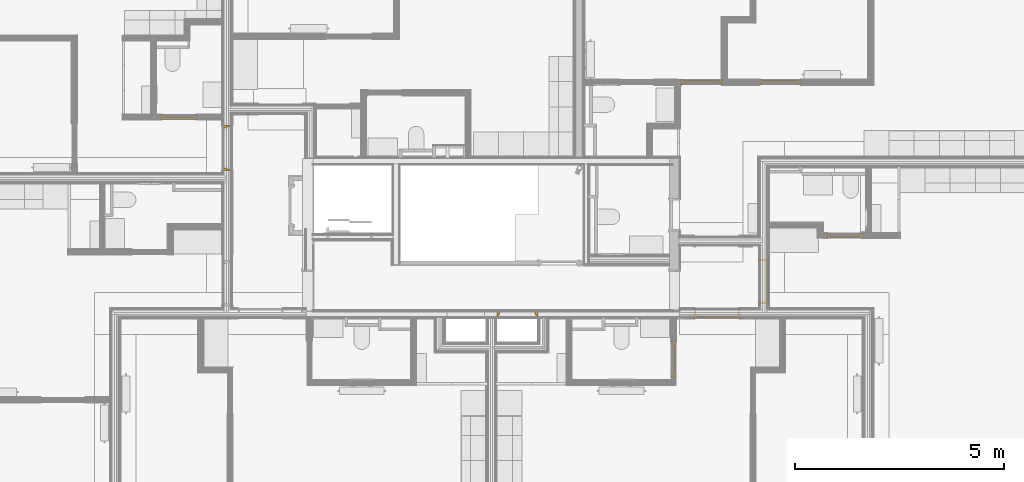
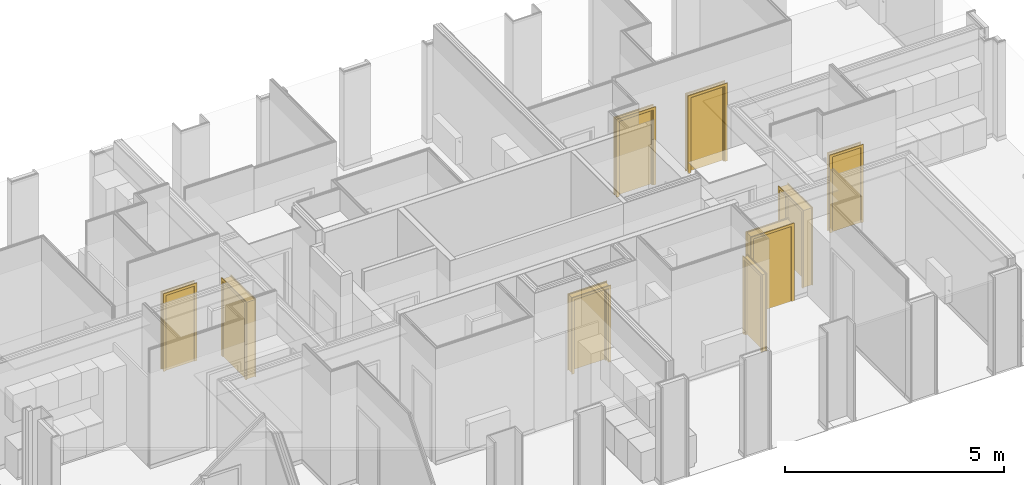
# One storey, part 55 of 65: 9 doors.
"""IFC2X3 building model written with IfcOpenShell, lengths in metres."""

from ifc_helpers import new_model, entity, si_unit, converted_unit, derived_unit, money_unit, direction, frame, origin_with_axes, place, context, subcontext, project, spatial, faceted_brep, material, type_object, element, save


model = new_model("IFC2X3")

# Units and contexts
model_context = context("Model", 3, precision=1e-05, world=origin_with_axes(), true_north=direction((0.0, 1.0)))
body_context = subcontext(model_context, "Body", "Model", "MODEL_VIEW", scale=1.0)
ifc_project = project(units=[si_unit("LENGTHUNIT", "METRE"), si_unit("AREAUNIT", "SQUARE_METRE"), si_unit("VOLUMEUNIT", "CUBIC_METRE"), si_unit("ABSORBEDDOSEUNIT", "GRAY"), si_unit("AMOUNTOFSUBSTANCEUNIT", "MOLE"), si_unit("DOSEEQUIVALENTUNIT", "SIEVERT"), si_unit("ELECTRICCAPACITANCEUNIT", "FARAD"), si_unit("ELECTRICCHARGEUNIT", "COULOMB"), si_unit("ELECTRICCONDUCTANCEUNIT", "SIEMENS"), si_unit("ELECTRICCURRENTUNIT", "AMPERE"), si_unit("ELECTRICRESISTANCEUNIT", "OHM"), si_unit("ELECTRICVOLTAGEUNIT", "VOLT"), si_unit("ENERGYUNIT", "JOULE"), si_unit("FORCEUNIT", "NEWTON"), si_unit("FREQUENCYUNIT", "HERTZ"), si_unit("ILLUMINANCEUNIT", "LUX"), si_unit("INDUCTANCEUNIT", "HENRY"), si_unit("LUMINOUSFLUXUNIT", "LUMEN"), si_unit("LUMINOUSINTENSITYUNIT", "CANDELA"), si_unit("MAGNETICFLUXDENSITYUNIT", "TESLA"), si_unit("MAGNETICFLUXUNIT", "WEBER"), si_unit("MASSUNIT", "GRAM"), converted_unit("PLANEANGLEUNIT", "degree", entity("IfcReal", 0.0174532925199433), si_unit("PLANEANGLEUNIT", "RADIAN"), dimensions=[0, 0, 0, 0, 0, 0, 0]), si_unit("POWERUNIT", "WATT"), si_unit("PRESSUREUNIT", "PASCAL"), si_unit("RADIOACTIVITYUNIT", "BECQUEREL"), si_unit("SOLIDANGLEUNIT", "STERADIAN"), si_unit("THERMODYNAMICTEMPERATUREUNIT", "KELVIN"), si_unit("TIMEUNIT", "SECOND"), derived_unit("ACCELERATIONUNIT", [(si_unit("LENGTHUNIT", "METRE"), 1), (si_unit("TIMEUNIT", "SECOND"), -2)]), derived_unit("ANGULARVELOCITYUNIT", [(converted_unit("PLANEANGLEUNIT", "degree", entity("IfcReal", 0.0174532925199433), si_unit("PLANEANGLEUNIT", "RADIAN"), dimensions=[0, 0, 0, 0, 0, 0, 0]), 1), (si_unit("TIMEUNIT", "SECOND"), -1)]), derived_unit("CURVATUREUNIT", [(converted_unit("PLANEANGLEUNIT", "degree", entity("IfcReal", 0.0174532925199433), si_unit("PLANEANGLEUNIT", "RADIAN"), dimensions=[0, 0, 0, 0, 0, 0, 0]), 1), (si_unit("LENGTHUNIT", "METRE"), -1)]), derived_unit("DYNAMICVISCOSITYUNIT", [(si_unit("PRESSUREUNIT", "PASCAL"), 1), (si_unit("TIMEUNIT", "SECOND"), 1)]), derived_unit("HEATFLUXDENSITYUNIT", [(si_unit("POWERUNIT", "WATT"), 1), (si_unit("LENGTHUNIT", "METRE"), -2)]), derived_unit("HEATINGVALUEUNIT", [(si_unit("ENERGYUNIT", "JOULE"), 1), (si_unit("MASSUNIT", "GRAM"), -1)]), derived_unit("INTEGERCOUNTRATEUNIT", [(si_unit("TIMEUNIT", "SECOND"), -1)]), derived_unit("IONCONCENTRATIONUNIT", [(si_unit("MASSUNIT", "GRAM"), 1), (si_unit("VOLUMEUNIT", "CUBIC_METRE"), -1)]), derived_unit("ISOTHERMALMOISTURECAPACITYUNIT", [(si_unit("VOLUMEUNIT", "CUBIC_METRE"), 1), (si_unit("MASSUNIT", "GRAM"), -1)]), derived_unit("KINEMATICVISCOSITYUNIT", [(si_unit("AREAUNIT", "SQUARE_METRE"), 1), (si_unit("TIMEUNIT", "SECOND"), -1)]), derived_unit("LINEARFORCEUNIT", [(si_unit("FORCEUNIT", "NEWTON"), 1), (si_unit("LENGTHUNIT", "METRE"), -1)]), derived_unit("LINEARMOMENTUNIT", [(si_unit("FORCEUNIT", "NEWTON"), 1), (si_unit("LENGTHUNIT", "METRE"), -1)]), derived_unit("LINEARSTIFFNESSUNIT", [(si_unit("FORCEUNIT", "NEWTON"), 1), (si_unit("LENGTHUNIT", "METRE"), -1)]), derived_unit("LINEARVELOCITYUNIT", [(si_unit("LENGTHUNIT", "METRE"), 1), (si_unit("TIMEUNIT", "SECOND"), -1)]), derived_unit("LUMINOUSINTENSITYDISTRIBUTIONUNIT", [(si_unit("LUMINOUSINTENSITYUNIT", "CANDELA"), 1), (si_unit("LUMINOUSFLUXUNIT", "LUMEN"), -1)]), derived_unit("MASSDENSITYUNIT", [(si_unit("MASSUNIT", "GRAM"), 1), (si_unit("VOLUMEUNIT", "CUBIC_METRE"), -1)]), derived_unit("MASSFLOWRATEUNIT", [(si_unit("MASSUNIT", "GRAM"), 1), (si_unit("TIMEUNIT", "SECOND"), -1)]), derived_unit("MASSPERLENGTHUNIT", [(si_unit("MASSUNIT", "GRAM"), 1), (si_unit("LENGTHUNIT", "METRE"), -1)]), derived_unit("MODULUSOFELASTICITYUNIT", [(si_unit("FORCEUNIT", "NEWTON"), 1), (si_unit("AREAUNIT", "SQUARE_METRE"), -1)]), derived_unit("MODULUSOFLINEARSUBGRADEREACTIONUNIT", [(si_unit("FORCEUNIT", "NEWTON"), 1), (si_unit("LENGTHUNIT", "METRE"), -2)]), derived_unit("MODULUSOFROTATIONALSUBGRADEREACTIONUNIT", [(si_unit("FORCEUNIT", "NEWTON"), 1), (si_unit("LENGTHUNIT", "METRE"), 1)]), derived_unit("MODULUSOFSUBGRADEREACTIONUNIT", [(si_unit("FORCEUNIT", "NEWTON"), 1), (si_unit("VOLUMEUNIT", "CUBIC_METRE"), -1)]), derived_unit("MOISTUREDIFFUSIVITYUNIT", [(si_unit("VOLUMEUNIT", "CUBIC_METRE"), 1), (si_unit("TIMEUNIT", "SECOND"), -1)]), derived_unit("MOLECULARWEIGHTUNIT", [(si_unit("MASSUNIT", "GRAM"), 1), (si_unit("AMOUNTOFSUBSTANCEUNIT", "MOLE"), -1)]), derived_unit("PLANARFORCEUNIT", [(si_unit("FORCEUNIT", "NEWTON"), 1), (si_unit("LENGTHUNIT", "METRE"), -2)]), derived_unit("ROTATIONALFREQUENCYUNIT", [(si_unit("TIMEUNIT", "SECOND"), -1)]), derived_unit("ROTATIONALMASSUNIT", [(si_unit("MASSUNIT", "GRAM"), 1), (si_unit("LENGTHUNIT", "METRE"), 2)]), derived_unit("ROTATIONALSTIFFNESSUNIT", [(si_unit("FORCEUNIT", "NEWTON"), 1), (si_unit("LENGTHUNIT", "METRE"), 1), (converted_unit("PLANEANGLEUNIT", "degree", entity("IfcReal", 0.0174532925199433), si_unit("PLANEANGLEUNIT", "RADIAN"), dimensions=[0, 0, 0, 0, 0, 0, 0]), -1)]), derived_unit("SECTIONAREAINTEGRALUNIT", [(si_unit("LENGTHUNIT", "METRE"), 5)]), derived_unit("SECTIONMODULUSUNIT", [(si_unit("LENGTHUNIT", "METRE"), 3)]), derived_unit("SHEARMODULUSUNIT", [(si_unit("FORCEUNIT", "NEWTON"), 1), (si_unit("AREAUNIT", "SQUARE_METRE"), -1)]), derived_unit("SOUNDPOWERUNIT", [(si_unit("ENERGYUNIT", "JOULE"), 1), (si_unit("TIMEUNIT", "SECOND"), -1)]), derived_unit("SPECIFICHEATCAPACITYUNIT", [(si_unit("FORCEUNIT", "NEWTON"), 1), (si_unit("MASSUNIT", "GRAM"), -1), (si_unit("THERMODYNAMICTEMPERATUREUNIT", "KELVIN"), -1)]), derived_unit("TEMPERATUREGRADIENTUNIT", [(si_unit("THERMODYNAMICTEMPERATUREUNIT", "KELVIN"), 1), (si_unit("LENGTHUNIT", "METRE"), -1)]), derived_unit("THERMALADMITTANCEUNIT", [(si_unit("POWERUNIT", "WATT"), 1), (si_unit("AREAUNIT", "SQUARE_METRE"), -1), (si_unit("THERMODYNAMICTEMPERATUREUNIT", "KELVIN"), -1)]), derived_unit("THERMALCONDUCTANCEUNIT", [(si_unit("POWERUNIT", "WATT"), 1), (si_unit("LENGTHUNIT", "METRE"), -1), (si_unit("THERMODYNAMICTEMPERATUREUNIT", "KELVIN"), -1)]), derived_unit("THERMALEXPANSIONCOEFFICIENTUNIT", [(si_unit("THERMODYNAMICTEMPERATUREUNIT", "KELVIN"), -1)]), derived_unit("THERMALRESISTANCEUNIT", [(si_unit("AREAUNIT", "SQUARE_METRE"), 1), (si_unit("POWERUNIT", "WATT"), -1)]), derived_unit("THERMALTRANSMITTANCEUNIT", [(si_unit("POWERUNIT", "WATT"), 1), (si_unit("AREAUNIT", "SQUARE_METRE"), -1), (si_unit("THERMODYNAMICTEMPERATUREUNIT", "KELVIN"), -1)]), derived_unit("TORQUEUNIT", [(si_unit("FORCEUNIT", "NEWTON"), 1), (si_unit("LENGTHUNIT", "METRE"), 1)]), derived_unit("VAPORPERMEABILITYUNIT", [(si_unit("MASSUNIT", "GRAM"), 1), (si_unit("TIMEUNIT", "SECOND"), -1)]), derived_unit("VOLUMETRICFLOWRATEUNIT", [(si_unit("VOLUMEUNIT", "CUBIC_METRE"), 1), (si_unit("TIMEUNIT", "SECOND"), -1)]), derived_unit("WARPINGCONSTANTUNIT", [(si_unit("LENGTHUNIT", "METRE"), 6)]), derived_unit("WARPINGMOMENTUNIT", [(si_unit("FORCEUNIT", "NEWTON"), 1), (si_unit("LENGTHUNIT", "METRE"), 2)]), money_unit("GBP")], contexts=[model_context])

# Site, building, storey, space
site_placement = place(None, origin_with_axes())
site = spatial("IfcSite", under=ifc_project, at=site_placement, Name="Site", CompositionType="ELEMENT")
building_placement = place(site_placement, origin_with_axes())
building = spatial("IfcBuilding", under=site, at=building_placement, Name="Building01", CompositionType="ELEMENT")
storey_placement = place(building_placement, frame((0.0, 0.0, 8.64), z_axis=(0.0, 0.0, 1.0), x_axis=(1.0, 0.0, 0.0)))
storey = spatial("IfcBuildingStorey", under=building, at=storey_placement, Name="2F", CompositionType="ELEMENT", Elevation=8.64)
space_1_placement = place(storey_placement, frame((20.122661, 5.205, 0.017975), z_axis=(0.0, 0.0, 1.0), x_axis=(1.0, 0.0, 0.0)))
space_1 = spatial("IfcSpace", under=storey, at=space_1_placement, Name="10", CompositionType="ELEMENT", InteriorOrExteriorSpace="NOTDEFINED")

# Door
ifc_material = material(Name="A_BSUK_Doors")
door_style_1 = type_object("IfcDoorStyle", Name="A-Doors-SingleFlush", ConstructionType="USERDEFINED", OperationType="SINGLE_SWING_RIGHT", ParameterTakesPrecedence=False, Sizeable=False)
door_1_placement = place(storey_placement, frame((20.122661, 6.357147, 0.0), z_axis=(0.0, 0.0, 1.0), x_axis=(0.0, -1.0, 0.0)))
element("IfcDoor", 1, at=door_1_placement, inside=space_1, type_object=door_style_1, material=ifc_material, Name="2.10", ObjectType="A-Doors-SingleFlush", OverallHeight=2.16900000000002, OverallWidth=1.13800000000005, context=body_context, shape_type="Brep", body=[
    faceted_brep([(1.0, -0.244, 0.0), (1.069, -0.244, 0.0), (1.069, -0.244, 2.169), (-0.069, -0.244, 2.169), (-0.069, -0.244, 0.0), (0.0, -0.244, 0.0), (0.0, -0.244, 2.1), (1.0, -0.244, 2.1), (-0.069, -0.225, 0.0), (-0.069, -0.225, 2.169), (1.069, -0.225, 2.169), (1.069, -0.225, 0.0), (1.0, 0.019, 0.0), (1.069, 0.019, 0.0), (1.069, 0.0, 0.0), (1.042, 0.0, 0.0), (1.042, -0.225, 0.0), (1.0, 0.019, 2.1), (0.0, 0.019, 2.1), (0.0, 0.019, 0.0), (-0.069, 0.019, 0.0), (-0.069, 0.019, 2.169), (1.069, 0.019, 2.169), (1.069, 0.0, 2.169), (1.042, -0.225, 2.142), (1.042, 0.0, 2.142), (-0.042, -0.225, 2.142), (-0.042, 0.0, 2.142), (-0.042, -0.225, 0.0), (-0.042, 0.0, 0.0), (-0.069, 0.0, 2.169), (-0.069, 0.0, 0.0)], [[[0, 1, 2, 3, 4, 5, 6, 7]], [[8, 4, 3, 9]], [[10, 2, 1, 11]], [[9, 3, 2, 10]], [[12, 13, 14, 15, 16, 11, 1, 0]], [[7, 17, 12, 0]], [[6, 18, 17, 7]], [[18, 19, 20, 21, 22, 13, 12, 17]], [[5, 19, 18, 6]], [[13, 22, 23, 14]], [[24, 16, 15, 25]], [[26, 24, 25, 27]], [[11, 16, 24, 26, 28, 8, 9, 10]], [[27, 29, 28, 26]], [[25, 15, 14, 23, 30, 31, 29, 27]], [[5, 4, 8, 28, 29, 31, 20, 19]], [[30, 21, 20, 31]], [[23, 22, 21, 30]]]),
    faceted_brep([(0.0, -0.09, 2.1), (0.0, -0.04, 2.1), (0.0, -0.04, 0.0), (0.0, -0.09, 0.0), (0.975, -0.09, 0.0), (1.0, -0.09, 0.0), (1.0, -0.09, 2.1), (0.025, -0.09, 0.0), (0.025, -0.09, 2.075), (0.975, -0.09, 2.075), (0.975, -0.04, 0.0), (1.0, -0.04, 0.0), (1.0, -0.04, 2.1), (0.025, -0.04, 2.075), (0.025, -0.04, 0.0), (0.975, -0.04, 2.075)], [[[0, 1, 2, 3]], [[4, 5, 6, 0, 3, 7, 8, 9]], [[10, 11, 5, 4]], [[6, 12, 1, 0]], [[5, 11, 12, 6]], [[13, 14, 2, 1, 12, 11, 10, 15]], [[7, 14, 13, 8]], [[7, 3, 2, 14]], [[9, 15, 10, 4]], [[8, 13, 15, 9]]]),
    faceted_brep([(1.0, -0.04, 0.0), (1.0, 0.0, 0.0), (1.0, 0.0, 2.1), (1.0, -0.04, 2.1), (0.0, -0.04, 2.1), (0.0, 0.0, 2.1), (0.0, 0.0, 0.0), (0.0, -0.04, 0.0)], [[[0, 1, 2, 3]], [[4, 5, 6, 7]], [[7, 6, 1, 0]], [[3, 4, 7, 0]], [[3, 2, 5, 4]], [[1, 6, 5, 2]]]),
])

# Space
space_2_placement = place(storey_placement, frame((3.569669, 8.43567, 0.017975), z_axis=(0.0, 0.0, 1.0), x_axis=(1.0, 0.0, 0.0)))
space_2 = spatial("IfcSpace", under=storey, at=space_2_placement, Name="corridor", CompositionType="ELEMENT", InteriorOrExteriorSpace="NOTDEFINED")

# Door
door_style_2 = type_object("IfcDoorStyle", Name="A-Doors-SingleFlush", ConstructionType="USERDEFINED", OperationType="SINGLE_SWING_LEFT", ParameterTakesPrecedence=False, Sizeable=False)
door_2_placement = place(storey_placement, frame((7.064669, 8.550704, 0.0), z_axis=(0.0, 0.0, 1.0), x_axis=(0.0, 1.0, 0.0)))
element("IfcDoor", 2, at=door_2_placement, inside=space_2, type_object=door_style_2, material=ifc_material, Name="2.20", ObjectType="A-Doors-SingleFlush", OverallHeight=2.16900000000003, OverallWidth=1.13800000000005, context=body_context, shape_type="Brep", body=[
    faceted_brep([(0.0, -0.244, 2.1), (1.0, -0.244, 2.1), (1.0, -0.244, 0.0), (1.069, -0.244, 0.0), (1.069, -0.244, 2.169), (-0.069, -0.244, 2.169), (-0.069, -0.244, 0.0), (0.0, -0.244, 0.0), (1.069, -0.225, 2.169), (1.069, -0.225, 0.0), (-0.069, -0.225, 0.0), (-0.069, -0.225, 2.169), (-0.042, -0.225, 0.0), (-0.042, 0.0, 0.0), (-0.069, 0.0, 0.0), (-0.069, 0.019, 0.0), (0.0, 0.019, 0.0), (0.0, 0.019, 2.1), (1.0, 0.019, 2.1), (-0.069, 0.019, 2.169), (1.069, 0.019, 2.169), (1.069, 0.019, 0.0), (1.0, 0.019, 0.0), (-0.069, 0.0, 2.169), (-0.042, 0.0, 2.142), (-0.042, -0.225, 2.142), (1.042, 0.0, 2.142), (1.042, -0.225, 2.142), (1.042, -0.225, 0.0), (1.042, 0.0, 0.0), (1.069, 0.0, 0.0), (1.069, 0.0, 2.169)], [[[0, 1, 2, 3, 4, 5, 6, 7]], [[8, 4, 3, 9]], [[10, 6, 5, 11]], [[11, 5, 4, 8]], [[7, 6, 10, 12, 13, 14, 15, 16]], [[7, 16, 17, 0]], [[0, 17, 18, 1]], [[17, 16, 15, 19, 20, 21, 22, 18]], [[1, 18, 22, 2]], [[14, 23, 19, 15]], [[24, 13, 12, 25]], [[26, 24, 25, 27]], [[11, 8, 9, 28, 27, 25, 12, 10]], [[27, 28, 29, 26]], [[26, 29, 30, 31, 23, 14, 13, 24]], [[22, 21, 30, 29, 28, 9, 3, 2]], [[30, 21, 20, 31]], [[31, 20, 19, 23]]]),
    faceted_brep([(1.0, -0.09, 0.0), (1.0, -0.04, 0.0), (1.0, -0.04, 2.1), (1.0, -0.09, 2.1), (0.025, -0.09, 2.075), (0.975, -0.09, 2.075), (0.975, -0.09, 0.0), (0.0, -0.09, 2.1), (0.0, -0.09, 0.0), (0.025, -0.09, 0.0), (0.0, -0.04, 0.0), (0.025, -0.04, 0.0), (0.0, -0.04, 2.1), (0.025, -0.04, 2.075), (0.975, -0.04, 0.0), (0.975, -0.04, 2.075)], [[[0, 1, 2, 3]], [[4, 5, 6, 0, 3, 7, 8, 9]], [[9, 8, 10, 11]], [[3, 2, 12, 7]], [[7, 12, 10, 8]], [[13, 11, 10, 12, 2, 1, 14, 15]], [[5, 15, 14, 6]], [[14, 1, 0, 6]], [[9, 11, 13, 4]], [[4, 13, 15, 5]]]),
    faceted_brep([(0.0, -0.04, 2.1), (0.0, 0.0, 2.1), (0.0, 0.0, 0.0), (0.0, -0.04, 0.0), (1.0, -0.04, 0.0), (1.0, 0.0, 0.0), (1.0, 0.0, 2.1), (1.0, -0.04, 2.1)], [[[0, 1, 2, 3]], [[4, 5, 6, 7]], [[3, 2, 5, 4]], [[3, 4, 7, 0]], [[7, 6, 1, 0]], [[1, 6, 5, 2]]]),
])

# Space
space_3_placement = place(storey_placement, frame((17.9025, 3.385, 0.017975), z_axis=(0.0, 0.0, 1.0), x_axis=(-1.0, 0.0, 0.0)))
space_3 = spatial("IfcSpace", under=storey, at=space_3_placement, Name="k/d/l", CompositionType="ELEMENT", InteriorOrExteriorSpace="NOTDEFINED")

# Door
door_3_placement = place(storey_placement, frame((19.392, 4.98, 0.0), z_axis=(0.0, 0.0, 1.0), x_axis=(-1.0, 0.0, 0.0)))
element("IfcDoor", 3, at=door_3_placement, inside=space_3, type_object=door_style_2, material=ifc_material, Name="2.12", ObjectType="A-Doors-SingleFlush", OverallHeight=2.16900000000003, OverallWidth=1.13800000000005, context=body_context, shape_type="Brep", body=[
    faceted_brep([(0.0, -0.244, 2.1), (1.0, -0.244, 2.1), (1.0, -0.244, 0.0), (1.069, -0.244, 0.0), (1.069, -0.244, 2.169), (-0.069, -0.244, 2.169), (-0.069, -0.244, 0.0), (0.0, -0.244, 0.0), (1.069, -0.225, 2.169), (1.069, -0.225, 0.0), (-0.069, -0.225, 0.0), (-0.069, -0.225, 2.169), (-0.042, -0.225, 0.0), (-0.042, 0.0, 0.0), (-0.069, 0.0, 0.0), (-0.069, 0.019, 0.0), (0.0, 0.019, 0.0), (0.0, 0.019, 2.1), (1.0, 0.019, 2.1), (-0.069, 0.019, 2.169), (1.069, 0.019, 2.169), (1.069, 0.019, 0.0), (1.0, 0.019, 0.0), (-0.069, 0.0, 2.169), (-0.042, 0.0, 2.142), (-0.042, -0.225, 2.142), (1.042, 0.0, 2.142), (1.042, -0.225, 2.142), (1.042, -0.225, 0.0), (1.042, 0.0, 0.0), (1.069, 0.0, 0.0), (1.069, 0.0, 2.169)], [[[0, 1, 2, 3, 4, 5, 6, 7]], [[8, 4, 3, 9]], [[10, 6, 5, 11]], [[11, 5, 4, 8]], [[7, 6, 10, 12, 13, 14, 15, 16]], [[7, 16, 17, 0]], [[0, 17, 18, 1]], [[17, 16, 15, 19, 20, 21, 22, 18]], [[1, 18, 22, 2]], [[14, 23, 19, 15]], [[24, 13, 12, 25]], [[26, 24, 25, 27]], [[11, 8, 9, 28, 27, 25, 12, 10]], [[27, 28, 29, 26]], [[26, 29, 30, 31, 23, 14, 13, 24]], [[22, 21, 30, 29, 28, 9, 3, 2]], [[30, 21, 20, 31]], [[31, 20, 19, 23]]]),
    faceted_brep([(1.0, -0.09, 0.0), (1.0, -0.04, 0.0), (1.0, -0.04, 2.1), (1.0, -0.09, 2.1), (0.025, -0.09, 2.075), (0.975, -0.09, 2.075), (0.975, -0.09, 0.0), (0.0, -0.09, 2.1), (0.0, -0.09, 0.0), (0.025, -0.09, 0.0), (0.0, -0.04, 0.0), (0.025, -0.04, 0.0), (0.0, -0.04, 2.1), (0.025, -0.04, 2.075), (0.975, -0.04, 0.0), (0.975, -0.04, 2.075)], [[[0, 1, 2, 3]], [[4, 5, 6, 0, 3, 7, 8, 9]], [[9, 8, 10, 11]], [[3, 2, 12, 7]], [[7, 12, 10, 8]], [[13, 11, 10, 12, 2, 1, 14, 15]], [[5, 15, 14, 6]], [[14, 1, 0, 6]], [[9, 11, 13, 4]], [[4, 13, 15, 5]]]),
    faceted_brep([(0.0, -0.04, 2.1), (0.0, 0.0, 2.1), (0.0, 0.0, 0.0), (0.0, -0.04, 0.0), (1.0, -0.04, 0.0), (1.0, 0.0, 0.0), (1.0, 0.0, 2.1), (1.0, -0.04, 2.1)], [[[0, 1, 2, 3]], [[4, 5, 6, 7]], [[3, 2, 5, 4]], [[3, 4, 7, 0]], [[7, 6, 1, 0]], [[1, 6, 5, 2]]]),
])

# Space
space_4_placement = place(storey_placement, frame((15.83, 8.82, 0.017975), z_axis=(0.0, 0.0, 1.0), x_axis=(0.0, -1.0, 0.0)))
space_4 = spatial("IfcSpace", under=storey, at=space_4_placement, Name="09", CompositionType="ELEMENT", InteriorOrExteriorSpace="NOTDEFINED")

# Doors
door_style_3 = type_object("IfcDoorStyle", Name="A-Doors-SingleFlush", ConstructionType="USERDEFINED", OperationType="SINGLE_SWING_LEFT", ParameterTakesPrecedence=False, Sizeable=False)
door_4_placement = place(storey_placement, frame((19.960284, 10.665, 0.0), z_axis=(0.0, 0.0, 1.0), x_axis=(1.0, 0.0, 0.0)))
element("IfcDoor", 4, at=door_4_placement, inside=space_4, type_object=door_style_3, material=ifc_material, Name="2.07", ObjectType="A-Doors-SingleFlush", OverallHeight=2.16900000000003, OverallWidth=1.03800000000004, context=body_context, shape_type="Brep", body=[
    faceted_brep([(0.0, -0.114, 2.1), (0.9, -0.114, 2.1), (0.9, -0.114, 0.0), (0.969, -0.114, 0.0), (0.969, -0.114, 2.169), (-0.069, -0.114, 2.169), (-0.069, -0.114, 0.0), (0.0, -0.114, 0.0), (0.969, -0.095, 2.169), (0.969, -0.095, 0.0), (-0.069, -0.095, 0.0), (-0.069, -0.095, 2.169), (-0.042, -0.095, 0.0), (-0.042, 0.0, 0.0), (-0.069, 0.0, 0.0), (-0.069, 0.019, 0.0), (0.0, 0.019, 0.0), (0.0, 0.019, 2.1), (0.9, 0.019, 2.1), (-0.069, 0.019, 2.169), (0.969, 0.019, 2.169), (0.969, 0.019, 0.0), (0.9, 0.019, 0.0), (-0.069, 0.0, 2.169), (-0.042, 0.0, 2.142), (-0.042, -0.095, 2.142), (0.942, 0.0, 2.142), (0.942, -0.095, 2.142), (0.942, -0.095, 0.0), (0.942, 0.0, 0.0), (0.969, 0.0, 0.0), (0.969, 0.0, 2.169)], [[[0, 1, 2, 3, 4, 5, 6, 7]], [[8, 4, 3, 9]], [[10, 6, 5, 11]], [[11, 5, 4, 8]], [[7, 6, 10, 12, 13, 14, 15, 16]], [[7, 16, 17, 0]], [[0, 17, 18, 1]], [[17, 16, 15, 19, 20, 21, 22, 18]], [[1, 18, 22, 2]], [[14, 23, 19, 15]], [[24, 13, 12, 25]], [[26, 24, 25, 27]], [[11, 8, 9, 28, 27, 25, 12, 10]], [[27, 28, 29, 26]], [[26, 29, 30, 31, 23, 14, 13, 24]], [[22, 21, 30, 29, 28, 9, 3, 2]], [[30, 21, 20, 31]], [[31, 20, 19, 23]]]),
    faceted_brep([(0.9, -0.09, 0.0), (0.9, -0.04, 0.0), (0.9, -0.04, 2.1), (0.9, -0.09, 2.1), (0.025, -0.09, 2.075), (0.875, -0.09, 2.075), (0.875, -0.09, 0.0), (0.0, -0.09, 2.1), (0.0, -0.09, 0.0), (0.025, -0.09, 0.0), (0.0, -0.04, 0.0), (0.025, -0.04, 0.0), (0.0, -0.04, 2.1), (0.025, -0.04, 2.075), (0.875, -0.04, 0.0), (0.875, -0.04, 2.075)], [[[0, 1, 2, 3]], [[4, 5, 6, 0, 3, 7, 8, 9]], [[9, 8, 10, 11]], [[3, 2, 12, 7]], [[7, 12, 10, 8]], [[13, 11, 10, 12, 2, 1, 14, 15]], [[5, 15, 14, 6]], [[14, 1, 0, 6]], [[9, 11, 13, 4]], [[4, 13, 15, 5]]]),
    faceted_brep([(0.0, -0.04, 2.1), (0.0, 0.0, 2.1), (0.0, 0.0, 0.0), (0.0, -0.04, 0.0), (0.9, -0.04, 0.0), (0.9, 0.0, 0.0), (0.9, 0.0, 2.1), (0.9, -0.04, 2.1)], [[[0, 1, 2, 3]], [[4, 5, 6, 7]], [[3, 2, 5, 4]], [[3, 4, 7, 0]], [[7, 6, 1, 0]], [[1, 6, 5, 2]]]),
])
door_style_4 = type_object("IfcDoorStyle", Name="A-Doors-SingleFlush", ConstructionType="USERDEFINED", OperationType="SINGLE_SWING_RIGHT", ParameterTakesPrecedence=False, Sizeable=False)
door_5_placement = place(storey_placement, frame((18.075398, 10.665, 0.0), z_axis=(0.0, 0.0, 1.0), x_axis=(1.0, 0.0, 0.0)))
element("IfcDoor", 5, at=door_5_placement, inside=space_4, type_object=door_style_4, material=ifc_material, Name="2.06", ObjectType="A-Doors-SingleFlush", OverallHeight=2.16900000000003, OverallWidth=1.03800000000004, context=body_context, shape_type="Brep", body=[
    faceted_brep([(0.9, -0.114, 0.0), (0.969, -0.114, 0.0), (0.969, -0.114, 2.169), (-0.069, -0.114, 2.169), (-0.069, -0.114, 0.0), (0.0, -0.114, 0.0), (0.0, -0.114, 2.1), (0.9, -0.114, 2.1), (-0.069, -0.095, 0.0), (-0.069, -0.095, 2.169), (0.969, -0.095, 2.169), (0.969, -0.095, 0.0), (0.9, 0.019, 0.0), (0.969, 0.019, 0.0), (0.969, 0.0, 0.0), (0.942, 0.0, 0.0), (0.942, -0.095, 0.0), (0.9, 0.019, 2.1), (0.0, 0.019, 2.1), (0.0, 0.019, 0.0), (-0.069, 0.019, 0.0), (-0.069, 0.019, 2.169), (0.969, 0.019, 2.169), (0.969, 0.0, 2.169), (0.942, -0.095, 2.142), (0.942, 0.0, 2.142), (-0.042, -0.095, 2.142), (-0.042, 0.0, 2.142), (-0.042, -0.095, 0.0), (-0.042, 0.0, 0.0), (-0.069, 0.0, 2.169), (-0.069, 0.0, 0.0)], [[[0, 1, 2, 3, 4, 5, 6, 7]], [[8, 4, 3, 9]], [[10, 2, 1, 11]], [[9, 3, 2, 10]], [[12, 13, 14, 15, 16, 11, 1, 0]], [[7, 17, 12, 0]], [[6, 18, 17, 7]], [[18, 19, 20, 21, 22, 13, 12, 17]], [[5, 19, 18, 6]], [[13, 22, 23, 14]], [[24, 16, 15, 25]], [[26, 24, 25, 27]], [[11, 16, 24, 26, 28, 8, 9, 10]], [[27, 29, 28, 26]], [[25, 15, 14, 23, 30, 31, 29, 27]], [[5, 4, 8, 28, 29, 31, 20, 19]], [[30, 21, 20, 31]], [[23, 22, 21, 30]]]),
    faceted_brep([(0.0, -0.09, 2.1), (0.0, -0.04, 2.1), (0.0, -0.04, 0.0), (0.0, -0.09, 0.0), (0.875, -0.09, 0.0), (0.9, -0.09, 0.0), (0.9, -0.09, 2.1), (0.025, -0.09, 0.0), (0.025, -0.09, 2.075), (0.875, -0.09, 2.075), (0.875, -0.04, 0.0), (0.9, -0.04, 0.0), (0.9, -0.04, 2.1), (0.025, -0.04, 2.075), (0.025, -0.04, 0.0), (0.875, -0.04, 2.075)], [[[0, 1, 2, 3]], [[4, 5, 6, 0, 3, 7, 8, 9]], [[10, 11, 5, 4]], [[6, 12, 1, 0]], [[5, 11, 12, 6]], [[13, 14, 2, 1, 12, 11, 10, 15]], [[7, 14, 13, 8]], [[7, 3, 2, 14]], [[9, 15, 10, 4]], [[8, 13, 15, 9]]]),
    faceted_brep([(0.9, -0.04, 0.0), (0.9, 0.0, 0.0), (0.9, 0.0, 2.1), (0.9, -0.04, 2.1), (0.0, -0.04, 2.1), (0.0, 0.0, 2.1), (0.0, 0.0, 0.0), (0.0, -0.04, 0.0)], [[[0, 1, 2, 3]], [[4, 5, 6, 7]], [[7, 6, 1, 0]], [[3, 4, 7, 0]], [[3, 2, 5, 4]], [[1, 6, 5, 2]]]),
])
door_6_placement = place(storey_placement, frame((22.326661, 6.905, 0.0), z_axis=(0.0, 0.0, 1.0), x_axis=(-1.0, 0.0, 0.0)))
element("IfcDoor", 6, at=door_6_placement, inside=space_1, type_object=door_style_4, material=ifc_material, Name="2.11", ObjectType="A-Doors-SingleFlush", OverallHeight=2.16900000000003, OverallWidth=0.888000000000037, context=body_context, shape_type="Brep", body=[
    faceted_brep([(0.75, -0.114, 0.0), (0.819, -0.114, 0.0), (0.819, -0.114, 2.169), (-0.069, -0.114, 2.169), (-0.069, -0.114, 0.0), (0.0, -0.114, 0.0), (0.0, -0.114, 2.1), (0.75, -0.114, 2.1), (-0.069, -0.095, 0.0), (-0.069, -0.095, 2.169), (0.819, -0.095, 2.169), (0.819, -0.095, 0.0), (0.75, 0.019, 0.0), (0.819, 0.019, 0.0), (0.819, 0.0, 0.0), (0.792, 0.0, 0.0), (0.792, -0.095, 0.0), (0.75, 0.019, 2.1), (0.0, 0.019, 2.1), (0.0, 0.019, 0.0), (-0.069, 0.019, 0.0), (-0.069, 0.019, 2.169), (0.819, 0.019, 2.169), (0.819, 0.0, 2.169), (0.792, -0.095, 2.142), (0.792, 0.0, 2.142), (-0.042, -0.095, 2.142), (-0.042, 0.0, 2.142), (-0.042, -0.095, 0.0), (-0.042, 0.0, 0.0), (-0.069, 0.0, 2.169), (-0.069, 0.0, 0.0)], [[[0, 1, 2, 3, 4, 5, 6, 7]], [[8, 4, 3, 9]], [[10, 2, 1, 11]], [[9, 3, 2, 10]], [[12, 13, 14, 15, 16, 11, 1, 0]], [[7, 17, 12, 0]], [[6, 18, 17, 7]], [[18, 19, 20, 21, 22, 13, 12, 17]], [[5, 19, 18, 6]], [[13, 22, 23, 14]], [[24, 16, 15, 25]], [[26, 24, 25, 27]], [[11, 16, 24, 26, 28, 8, 9, 10]], [[27, 29, 28, 26]], [[25, 15, 14, 23, 30, 31, 29, 27]], [[5, 4, 8, 28, 29, 31, 20, 19]], [[30, 21, 20, 31]], [[23, 22, 21, 30]]]),
    faceted_brep([(0.0, -0.09, 2.1), (0.0, -0.04, 2.1), (0.0, -0.04, 0.0), (0.0, -0.09, 0.0), (0.725, -0.09, 0.0), (0.75, -0.09, 0.0), (0.75, -0.09, 2.1), (0.025, -0.09, 0.0), (0.025, -0.09, 2.075), (0.725, -0.09, 2.075), (0.725, -0.04, 0.0), (0.75, -0.04, 0.0), (0.75, -0.04, 2.1), (0.025, -0.04, 2.075), (0.025, -0.04, 0.0), (0.725, -0.04, 2.075)], [[[0, 1, 2, 3]], [[4, 5, 6, 0, 3, 7, 8, 9]], [[10, 11, 5, 4]], [[6, 12, 1, 0]], [[5, 11, 12, 6]], [[13, 14, 2, 1, 12, 11, 10, 15]], [[7, 14, 13, 8]], [[7, 3, 2, 14]], [[9, 15, 10, 4]], [[8, 13, 15, 9]]]),
    faceted_brep([(0.75, -0.04, 0.0), (0.75, 0.0, 0.0), (0.75, 0.0, 2.1), (0.75, -0.04, 2.1), (0.0, -0.04, 2.1), (0.0, 0.0, 2.1), (0.0, 0.0, 0.0), (0.0, -0.04, 0.0)], [[[0, 1, 2, 3]], [[4, 5, 6, 7]], [[7, 6, 1, 0]], [[3, 4, 7, 0]], [[3, 2, 5, 4]], [[1, 6, 5, 2]]]),
])

# Space
space_5_placement = place(storey_placement, frame((14.85, 4.98, 0.017975), z_axis=(0.0, 0.0, 1.0), x_axis=(0.0, -1.0, 0.0)))
space_5 = spatial("IfcSpace", under=storey, at=space_5_placement, Name="11", CompositionType="ELEMENT", InteriorOrExteriorSpace="NOTDEFINED")

# Door
door_7_placement = place(storey_placement, frame((17.9025, 4.363781, 0.0), z_axis=(0.0, 0.0, 1.0), x_axis=(0.0, -1.0, 0.0)))
element("IfcDoor", 7, at=door_7_placement, inside=space_5, type_object=door_style_4, material=ifc_material, Name="2.13", ObjectType="A-Doors-SingleFlush", OverallHeight=2.16900000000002, OverallWidth=0.88800000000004, context=body_context, shape_type="Brep", body=[
    faceted_brep([(0.75, -0.114, 0.0), (0.819, -0.114, 0.0), (0.819, -0.114, 2.169), (-0.069, -0.114, 2.169), (-0.069, -0.114, 0.0), (0.0, -0.114, 0.0), (0.0, -0.114, 2.1), (0.75, -0.114, 2.1), (-0.069, -0.095, 0.0), (-0.069, -0.095, 2.169), (0.819, -0.095, 2.169), (0.819, -0.095, 0.0), (0.75, 0.019, 0.0), (0.819, 0.019, 0.0), (0.819, 0.0, 0.0), (0.792, 0.0, 0.0), (0.792, -0.095, 0.0), (0.75, 0.019, 2.1), (0.0, 0.019, 2.1), (0.0, 0.019, 0.0), (-0.069, 0.019, 0.0), (-0.069, 0.019, 2.169), (0.819, 0.019, 2.169), (0.819, 0.0, 2.169), (0.792, -0.095, 2.142), (0.792, 0.0, 2.142), (-0.042, -0.095, 2.142), (-0.042, 0.0, 2.142), (-0.042, -0.095, 0.0), (-0.042, 0.0, 0.0), (-0.069, 0.0, 2.169), (-0.069, 0.0, 0.0)], [[[0, 1, 2, 3, 4, 5, 6, 7]], [[8, 4, 3, 9]], [[10, 2, 1, 11]], [[9, 3, 2, 10]], [[12, 13, 14, 15, 16, 11, 1, 0]], [[7, 17, 12, 0]], [[6, 18, 17, 7]], [[18, 19, 20, 21, 22, 13, 12, 17]], [[5, 19, 18, 6]], [[13, 22, 23, 14]], [[24, 16, 15, 25]], [[26, 24, 25, 27]], [[11, 16, 24, 26, 28, 8, 9, 10]], [[27, 29, 28, 26]], [[25, 15, 14, 23, 30, 31, 29, 27]], [[5, 4, 8, 28, 29, 31, 20, 19]], [[30, 21, 20, 31]], [[23, 22, 21, 30]]]),
    faceted_brep([(0.0, -0.09, 2.1), (0.0, -0.04, 2.1), (0.0, -0.04, 0.0), (0.0, -0.09, 0.0), (0.725, -0.09, 0.0), (0.75, -0.09, 0.0), (0.75, -0.09, 2.1), (0.025, -0.09, 0.0), (0.025, -0.09, 2.075), (0.725, -0.09, 2.075), (0.725, -0.04, 0.0), (0.75, -0.04, 0.0), (0.75, -0.04, 2.1), (0.025, -0.04, 2.075), (0.025, -0.04, 0.0), (0.725, -0.04, 2.075)], [[[0, 1, 2, 3]], [[4, 5, 6, 0, 3, 7, 8, 9]], [[10, 11, 5, 4]], [[6, 12, 1, 0]], [[5, 11, 12, 6]], [[13, 14, 2, 1, 12, 11, 10, 15]], [[7, 14, 13, 8]], [[7, 3, 2, 14]], [[9, 15, 10, 4]], [[8, 13, 15, 9]]]),
    faceted_brep([(0.75, -0.04, 0.0), (0.75, 0.0, 0.0), (0.75, 0.0, 2.1), (0.75, -0.04, 2.1), (0.0, -0.04, 2.1), (0.0, 0.0, 2.1), (0.0, 0.0, 0.0), (0.0, -0.04, 0.0)], [[[0, 1, 2, 3]], [[4, 5, 6, 7]], [[7, 6, 1, 0]], [[3, 4, 7, 0]], [[3, 2, 5, 4]], [[1, 6, 5, 2]]]),
])

# Space
space_6_placement = place(storey_placement, frame((7.064669, 14.582, 0.017975), z_axis=(0.0, 0.0, 1.0), x_axis=(-1.0, 0.0, 0.0)))
space_6 = spatial("IfcSpace", under=storey, at=space_6_placement, Name="14", CompositionType="ELEMENT", InteriorOrExteriorSpace="NOTDEFINED")

# Door
door_8_placement = place(storey_placement, frame((6.398669, 9.73567, 0.0), z_axis=(0.0, 0.0, 1.0), x_axis=(-1.0, 0.0, 0.0)))
element("IfcDoor", 8, at=door_8_placement, inside=space_6, type_object=door_style_4, material=ifc_material, Name="2.22", ObjectType="A-Doors-SingleFlush", OverallHeight=2.16900000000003, OverallWidth=0.888000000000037, context=body_context, shape_type="Brep", body=[
    faceted_brep([(0.75, -0.114, 0.0), (0.819, -0.114, 0.0), (0.819, -0.114, 2.169), (-0.069, -0.114, 2.169), (-0.069, -0.114, 0.0), (0.0, -0.114, 0.0), (0.0, -0.114, 2.1), (0.75, -0.114, 2.1), (-0.069, -0.095, 0.0), (-0.069, -0.095, 2.169), (0.819, -0.095, 2.169), (0.819, -0.095, 0.0), (0.75, 0.019, 0.0), (0.819, 0.019, 0.0), (0.819, 0.0, 0.0), (0.792, 0.0, 0.0), (0.792, -0.095, 0.0), (0.75, 0.019, 2.1), (0.0, 0.019, 2.1), (0.0, 0.019, 0.0), (-0.069, 0.019, 0.0), (-0.069, 0.019, 2.169), (0.819, 0.019, 2.169), (0.819, 0.0, 2.169), (0.792, -0.095, 2.142), (0.792, 0.0, 2.142), (-0.042, -0.095, 2.142), (-0.042, 0.0, 2.142), (-0.042, -0.095, 0.0), (-0.042, 0.0, 0.0), (-0.069, 0.0, 2.169), (-0.069, 0.0, 0.0)], [[[0, 1, 2, 3, 4, 5, 6, 7]], [[8, 4, 3, 9]], [[10, 2, 1, 11]], [[9, 3, 2, 10]], [[12, 13, 14, 15, 16, 11, 1, 0]], [[7, 17, 12, 0]], [[6, 18, 17, 7]], [[18, 19, 20, 21, 22, 13, 12, 17]], [[5, 19, 18, 6]], [[13, 22, 23, 14]], [[24, 16, 15, 25]], [[26, 24, 25, 27]], [[11, 16, 24, 26, 28, 8, 9, 10]], [[27, 29, 28, 26]], [[25, 15, 14, 23, 30, 31, 29, 27]], [[5, 4, 8, 28, 29, 31, 20, 19]], [[30, 21, 20, 31]], [[23, 22, 21, 30]]]),
    faceted_brep([(0.0, -0.09, 2.1), (0.0, -0.04, 2.1), (0.0, -0.04, 0.0), (0.0, -0.09, 0.0), (0.725, -0.09, 0.0), (0.75, -0.09, 0.0), (0.75, -0.09, 2.1), (0.025, -0.09, 0.0), (0.025, -0.09, 2.075), (0.725, -0.09, 2.075), (0.725, -0.04, 0.0), (0.75, -0.04, 0.0), (0.75, -0.04, 2.1), (0.025, -0.04, 2.075), (0.025, -0.04, 0.0), (0.725, -0.04, 2.075)], [[[0, 1, 2, 3]], [[4, 5, 6, 0, 3, 7, 8, 9]], [[10, 11, 5, 4]], [[6, 12, 1, 0]], [[5, 11, 12, 6]], [[13, 14, 2, 1, 12, 11, 10, 15]], [[7, 14, 13, 8]], [[7, 3, 2, 14]], [[9, 15, 10, 4]], [[8, 13, 15, 9]]]),
    faceted_brep([(0.75, -0.04, 0.0), (0.75, 0.0, 0.0), (0.75, 0.0, 2.1), (0.75, -0.04, 2.1), (0.0, -0.04, 2.1), (0.0, 0.0, 2.1), (0.0, 0.0, 0.0), (0.0, -0.04, 0.0)], [[[0, 1, 2, 3]], [[4, 5, 6, 7]], [[7, 6, 1, 0]], [[3, 4, 7, 0]], [[3, 2, 5, 4]], [[1, 6, 5, 2]]]),
])

# Space
space_7_placement = place(storey_placement, frame((9.225, 6.85, 0.017932), z_axis=(0.0, 0.0, 1.0), x_axis=(0.0, -1.0, 0.0)))
space_7 = spatial("IfcSpace", under=storey, at=space_7_placement, Name="hall (vented)", CompositionType="ELEMENT", InteriorOrExteriorSpace="NOTDEFINED")

# Door
door_style_5 = type_object("IfcDoorStyle", Name="A-Doors-DoubleFlush", ConstructionType="USERDEFINED", OperationType="DOUBLE_DOOR_SINGLE_SWING", ParameterTakesPrecedence=False, Sizeable=False)
door_9_placement = place(storey_placement, frame((13.667, 5.15, 0.0), z_axis=(0.0, 0.0, 1.0), x_axis=(1.0, 0.0, 0.0)))
element("IfcDoor", 9, at=door_9_placement, inside=space_7, type_object=door_style_5, material=ifc_material, Name="2.03", ObjectType="A-Doors-DoubleFlush", OverallHeight=2.12700000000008, OverallWidth=1.03800000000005, context=body_context, shape_type="Brep", body=[
    faceted_brep([(0.0, -0.189, 2.058), (0.9, -0.189, 2.058), (0.9, -0.189, 0.0), (0.969, -0.189, 0.0), (0.969, -0.189, 2.127), (-0.069, -0.189, 2.127), (-0.069, -0.189, 0.0), (0.0, -0.189, 0.0), (0.969, -0.17, 2.127), (0.969, -0.17, 0.0), (-0.069, -0.17, 0.0), (-0.069, -0.17, 2.127), (-0.042, -0.17, 0.0), (-0.042, 0.0, 0.0), (-0.069, 0.0, 0.0), (-0.069, 0.019, 0.0), (0.0, 0.019, 0.0), (0.0, 0.019, 2.058), (0.9, 0.019, 2.058), (-0.069, 0.019, 2.127), (0.969, 0.019, 2.127), (0.969, 0.019, 0.0), (0.9, 0.019, 0.0), (-0.069, 0.0, 2.127), (-0.042, 0.0, 2.1), (-0.042, -0.17, 2.1), (0.942, 0.0, 2.1), (0.942, -0.17, 2.1), (0.942, -0.17, 0.0), (0.942, 0.0, 0.0), (0.969, 0.0, 0.0), (0.969, 0.0, 2.127)], [[[0, 1, 2, 3, 4, 5, 6, 7]], [[8, 4, 3, 9]], [[10, 6, 5, 11]], [[11, 5, 4, 8]], [[7, 6, 10, 12, 13, 14, 15, 16]], [[7, 16, 17, 0]], [[0, 17, 18, 1]], [[17, 16, 15, 19, 20, 21, 22, 18]], [[1, 18, 22, 2]], [[14, 23, 19, 15]], [[24, 13, 12, 25]], [[26, 24, 25, 27]], [[11, 8, 9, 28, 27, 25, 12, 10]], [[27, 28, 29, 26]], [[26, 29, 30, 31, 23, 14, 13, 24]], [[22, 21, 30, 29, 28, 9, 3, 2]], [[30, 21, 20, 31]], [[31, 20, 19, 23]]]),
    faceted_brep([(0.9, -0.09, 0.0), (0.9, -0.04, 0.0), (0.9, -0.04, 2.058), (0.9, -0.09, 2.058), (0.025, -0.09, 2.033), (0.875, -0.09, 2.033), (0.875, -0.09, 0.0), (0.0, -0.09, 2.058), (0.0, -0.09, 0.0), (0.025, -0.09, 0.0), (0.0, -0.04, 0.0), (0.025, -0.04, 0.0), (0.0, -0.04, 2.058), (0.025, -0.04, 2.033), (0.875, -0.04, 0.0), (0.875, -0.04, 2.033)], [[[0, 1, 2, 3]], [[4, 5, 6, 0, 3, 7, 8, 9]], [[9, 8, 10, 11]], [[3, 2, 12, 7]], [[7, 12, 10, 8]], [[13, 11, 10, 12, 2, 1, 14, 15]], [[5, 15, 14, 6]], [[14, 1, 0, 6]], [[9, 11, 13, 4]], [[4, 13, 15, 5]]]),
    faceted_brep([(0.0, -0.04, 2.058), (0.0, 0.0, 2.058), (0.0, 0.0, 0.0), (0.0, -0.04, 0.0), (0.45, -0.04, 0.0), (0.45, 0.0, 0.0), (0.45, 0.0, 2.058), (0.45, -0.04, 2.058)], [[[0, 1, 2, 3]], [[4, 5, 6, 7]], [[3, 2, 5, 4]], [[3, 4, 7, 0]], [[7, 6, 1, 0]], [[1, 6, 5, 2]]]),
    faceted_brep([(0.45, -0.04, 2.058), (0.45, 0.0, 2.058), (0.45, 0.0, 0.0), (0.45, -0.04, 0.0), (0.9, -0.04, 0.0), (0.9, 0.0, 0.0), (0.9, 0.0, 2.058), (0.9, -0.04, 2.058)], [[[0, 1, 2, 3]], [[4, 5, 6, 7]], [[3, 2, 5, 4]], [[3, 4, 7, 0]], [[7, 6, 1, 0]], [[1, 6, 5, 2]]]),
])

save(model, "model.ifc")
